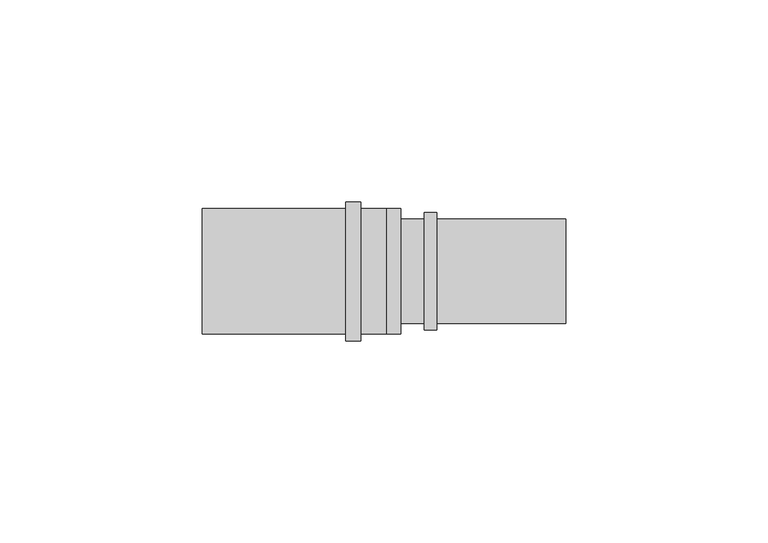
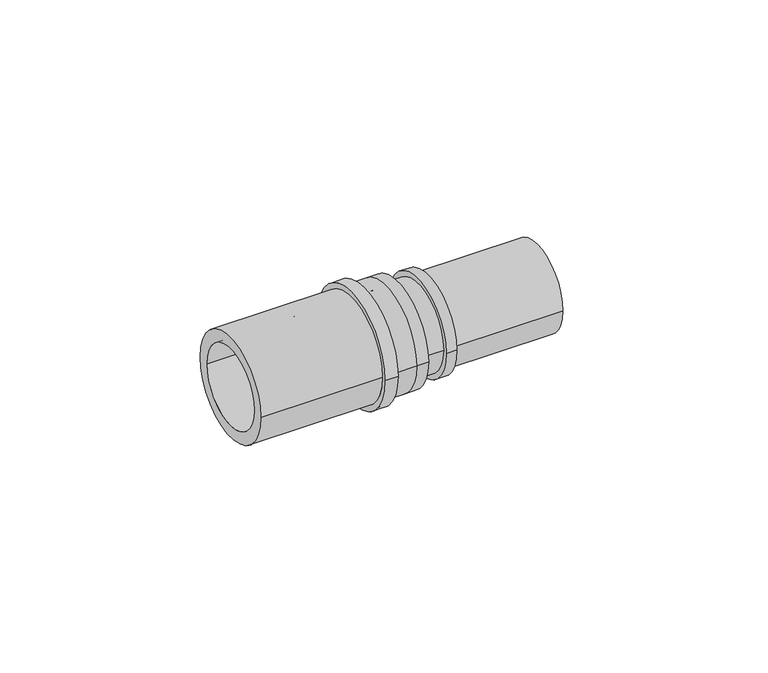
"""IFC4 building model written with IfcOpenShell, lengths in millimetres: pipe fitting geometry, FASTLOC_Coupling reduced LX : FSL C LX PL."""

from ifc_helpers import new_model, si_unit, frame, origin, place, context, project, spatial, polyline, circle_curve, source, transform, mapped, element, save
from ifc_brep_helpers import plane_surface, cylinder_surface, revolved_surface, advanced_brep


def pipe_fitting_32bb0f4b(model_context):
    return source(origin(), model_context, "Body", "AdvancedBrep", [
        advanced_brep(
        [(-1.5, 15.545, 0.0), (-1.5, -15.545, 0.0), (-7.9, -15.545, 0.0), (-7.9, 15.545, 0.0), (-7.9, 17.2, 0.0), (-7.9, -17.2, 0.0), (-11.6, -17.2, 0.0), (-11.6, 17.2, 0.0), (-11.6, 15.545, 0.0), (-11.6, -15.545, 0.0), (-47.1, -15.545, 0.0), (-47.1, 15.545, 0.0), (-47.1, 11.95, 0.0), (-47.1, -11.95, 0.0), (-1.5, -11.95, 0.0), (-1.5, 11.95, 0.0), (-1.5, 10.295, 0.0), (-1.5, -10.295, 0.0), (42.9, -10.295, 0.0), (42.9, 10.295, 0.0), (42.9, 12.9179189, 0.0), (42.9, -12.9179189, 0.0), (10.9, -12.9179189, 0.0), (10.9, 12.9179189, 0.0), (10.9, 14.545, 0.0), (10.9, -14.545, 0.0), (7.9, -14.545, 0.0), (7.9, 14.545, 0.0), (7.9, 12.945, 0.0), (7.9, -12.945, 0.0), (2.0, -12.945, 0.0), (2.0, 12.945, 0.0), (2.0, 15.545, 0.0), (2.0, -15.545, 0.0)],
        [
            (0, 1, circle_curve(frame((-1.5, 0.0, 0.0), z_axis=(-1.0, 0.0, 0.0), x_axis=(0.0, -1.0, 0.0)), 15.545)),
            (1, 2),
            (2, 3, circle_curve(frame((-7.9, 0.0, 0.0), z_axis=(1.0, 0.0, 0.0), x_axis=(0.0, -1.0, 0.0)), 15.545)),
            (3, 0),
            (4, 5, circle_curve(frame((-7.9, 0.0, 0.0), z_axis=(-1.0, 0.0, 0.0), x_axis=(0.0, -1.0, 0.0)), 17.2)),
            (5, 6),
            (6, 7, circle_curve(frame((-11.6, 0.0, 0.0), z_axis=(1.0, 0.0, 0.0), x_axis=(0.0, -1.0, 0.0)), 17.2)),
            (7, 4),
            (8, 9, circle_curve(frame((-11.6, 0.0, 0.0), z_axis=(-1.0, 0.0, 0.0), x_axis=(0.0, -1.0, 0.0)), 15.545)),
            (9, 10),
            (10, 11, circle_curve(frame((-47.1, 0.0, 0.0), z_axis=(1.0, 0.0, 0.0), x_axis=(0.0, -1.0, 0.0)), 15.545)),
            (11, 8),
            (12, 13, circle_curve(frame((-47.1, 0.0, 0.0), z_axis=(-1.0, 0.0, 0.0), x_axis=(0.0, -1.0, 0.0)), 11.95)),
            (13, 14),
            (14, 15, circle_curve(frame((-1.5, 0.0, 0.0), z_axis=(1.0, 0.0, 0.0), x_axis=(0.0, -1.0, 0.0)), 11.95)),
            (15, 12),
            (1, 0, circle_curve(frame((-1.5, 0.0, 0.0), z_axis=(-1.0, 0.0, 0.0), x_axis=(0.0, 1.0, 0.0)), 15.545)),
            (3, 2, circle_curve(frame((-7.9, 0.0, 0.0), z_axis=(1.0, 0.0, 0.0), x_axis=(0.0, 1.0, 0.0)), 15.545)),
            (4, 5, circle_curve(frame((-7.9, 0.0, 0.0), z_axis=(1.0, 0.0, 0.0), x_axis=(0.0, 1.0, 0.0)), 17.2)),
            (7, 6, circle_curve(frame((-11.6, 0.0, 0.0), z_axis=(1.0, 0.0, 0.0), x_axis=(0.0, 1.0, 0.0)), 17.2)),
            (8, 9, circle_curve(frame((-11.6, 0.0, 0.0), z_axis=(1.0, 0.0, 0.0), x_axis=(0.0, 1.0, 0.0)), 15.545)),
            (11, 10, circle_curve(frame((-47.1, 0.0, 0.0), z_axis=(1.0, 0.0, 0.0), x_axis=(0.0, 1.0, 0.0)), 15.545)),
            (12, 13, circle_curve(frame((-47.1, 0.0, 0.0), z_axis=(1.0, 0.0, 0.0), x_axis=(0.0, 1.0, 0.0)), 11.95)),
            (15, 14, circle_curve(frame((-1.5, 0.0, 0.0), z_axis=(1.0, 0.0, 0.0), x_axis=(0.0, 1.0, 0.0)), 11.95)),
            (16, 17, circle_curve(frame((-1.5, 0.0, 0.0), z_axis=(-1.0, 0.0, 0.0), x_axis=(0.0, -1.0, 0.0)), 10.295)),
            (17, 18),
            (18, 19, circle_curve(frame((42.9, 0.0, 0.0), z_axis=(1.0, 0.0, 0.0), x_axis=(0.0, -1.0, 0.0)), 10.295)),
            (19, 16),
            (20, 21, circle_curve(frame((42.9, 0.0, 0.0), z_axis=(-1.0, 0.0, 0.0), x_axis=(0.0, -1.0, 0.0)), 12.9179189)),
            (21, 22),
            (22, 23, circle_curve(frame((10.9, 0.0, 0.0), z_axis=(1.0, 0.0, 0.0), x_axis=(0.0, -1.0, 0.0)), 12.9179189)),
            (23, 20),
            (24, 25, circle_curve(frame((10.9, 0.0, 0.0), z_axis=(-1.0, 0.0, 0.0), x_axis=(0.0, -1.0, 0.0)), 14.545)),
            (25, 26),
            (26, 27, circle_curve(frame((7.9, 0.0, 0.0), z_axis=(1.0, 0.0, 0.0), x_axis=(0.0, -1.0, 0.0)), 14.545)),
            (27, 24),
            (28, 29, circle_curve(frame((7.9, 0.0, 0.0), z_axis=(-1.0, 0.0, 0.0), x_axis=(0.0, -1.0, 0.0)), 12.945)),
            (29, 30),
            (30, 31, circle_curve(frame((2.0, 0.0, 0.0), z_axis=(1.0, 0.0, 0.0), x_axis=(0.0, -1.0, 0.0)), 12.945)),
            (31, 28),
            (32, 33, circle_curve(frame((2.0, 0.0, 0.0), z_axis=(-1.0, 0.0, 0.0), x_axis=(0.0, -1.0, 0.0)), 15.545)),
            (33, 1),
            (0, 32),
            (16, 17, circle_curve(frame((-1.5, 0.0, 0.0), z_axis=(1.0, 0.0, 0.0), x_axis=(0.0, 1.0, 0.0)), 10.295)),
            (19, 18, circle_curve(frame((42.9, 0.0, 0.0), z_axis=(1.0, 0.0, 0.0), x_axis=(0.0, 1.0, 0.0)), 10.295)),
            (20, 21, circle_curve(frame((42.9, 0.0, 0.0), z_axis=(1.0, 0.0, 0.0), x_axis=(0.0, 1.0, 0.0)), 12.9179189)),
            (23, 22, circle_curve(frame((10.9, 0.0, 0.0), z_axis=(1.0, 0.0, 0.0), x_axis=(0.0, 1.0, 0.0)), 12.9179189)),
            (24, 25, circle_curve(frame((10.9, 0.0, 0.0), z_axis=(1.0, 0.0, 0.0), x_axis=(0.0, 1.0, 0.0)), 14.545)),
            (27, 26, circle_curve(frame((7.9, 0.0, 0.0), z_axis=(1.0, 0.0, 0.0), x_axis=(0.0, 1.0, 0.0)), 14.545)),
            (28, 29, circle_curve(frame((7.9, 0.0, 0.0), z_axis=(1.0, 0.0, 0.0), x_axis=(0.0, 1.0, 0.0)), 12.945)),
            (31, 30, circle_curve(frame((2.0, 0.0, 0.0), z_axis=(1.0, 0.0, 0.0), x_axis=(0.0, 1.0, 0.0)), 12.945)),
            (32, 33, circle_curve(frame((2.0, 0.0, 0.0), z_axis=(1.0, 0.0, 0.0), x_axis=(0.0, 1.0, 0.0)), 15.545)),
        ],
        [
            cylinder_surface(frame((0.0, 0.0, 0.0), z_axis=(1.0, 0.0, 0.0), x_axis=(0.0, -1.0, 0.0)), 15.545),
            cylinder_surface(frame((0.0, 0.0, 0.0), z_axis=(1.0, 0.0, 0.0), x_axis=(0.0, -1.0, 0.0)), 17.2),
            revolved_surface(polyline([(-1.5, -11.95, 0.0), (-47.1, -11.95, 0.0)]), (0.0, 0.0, 0.0), (1.0, 0.0, 0.0)),
            cylinder_surface(frame((0.0, 0.0, 0.0), z_axis=(1.0, 0.0, 0.0), x_axis=(0.0, 1.0, 0.0)), 15.545),
            plane_surface(frame((-7.9, 0.0, 0.0), z_axis=(1.0, 0.0, 0.0), x_axis=(0.0, 1.0, 0.0))),
            cylinder_surface(frame((0.0, 0.0, 0.0), z_axis=(1.0, 0.0, 0.0), x_axis=(0.0, 1.0, 0.0)), 17.2),
            plane_surface(frame((-11.6, 0.0, 0.0), z_axis=(-1.0, 0.0, 0.0), x_axis=(0.0, 1.0, 0.0))),
            plane_surface(frame((-47.1, 0.0, 0.0), z_axis=(-1.0, 0.0, 0.0), x_axis=(0.0, 1.0, 0.0))),
            revolved_surface(polyline([(-1.5, 11.95, 0.0), (-47.1, 11.95, 0.0)]), (0.0, 0.0, 0.0), (1.0, 0.0, 0.0)),
            revolved_surface(polyline([(42.9, -10.295, 0.0), (-1.5, -10.295, 0.0)]), (0.0, 0.0, 0.0), (1.0, 0.0, 0.0)),
            cylinder_surface(frame((0.0, 0.0, 0.0), z_axis=(1.0, 0.0, 0.0), x_axis=(0.0, -1.0, 0.0)), 12.9179189),
            cylinder_surface(frame((0.0, 0.0, 0.0), z_axis=(1.0, 0.0, 0.0), x_axis=(0.0, -1.0, 0.0)), 14.545),
            cylinder_surface(frame((0.0, 0.0, 0.0), z_axis=(1.0, 0.0, 0.0), x_axis=(0.0, -1.0, 0.0)), 12.945),
            plane_surface(frame((-1.5, 0.0, 0.0), z_axis=(-1.0, 0.0, 0.0), x_axis=(0.0, 1.0, 0.0))),
            revolved_surface(polyline([(42.9, 10.295, 0.0), (-1.5, 10.295, 0.0)]), (0.0, 0.0, 0.0), (1.0, 0.0, 0.0)),
            plane_surface(frame((42.9, 0.0, 0.0), z_axis=(1.0, 0.0, 0.0), x_axis=(0.0, 1.0, 0.0))),
            cylinder_surface(frame((0.0, 0.0, 0.0), z_axis=(1.0, 0.0, 0.0), x_axis=(0.0, 1.0, 0.0)), 12.9179189),
            plane_surface(frame((10.9, 0.0, 0.0), z_axis=(1.0, 0.0, 0.0), x_axis=(0.0, 1.0, 0.0))),
            cylinder_surface(frame((0.0, 0.0, 0.0), z_axis=(1.0, 0.0, 0.0), x_axis=(0.0, 1.0, 0.0)), 14.545),
            plane_surface(frame((7.9, 0.0, 0.0), z_axis=(-1.0, 0.0, 0.0), x_axis=(0.0, 1.0, 0.0))),
            cylinder_surface(frame((0.0, 0.0, 0.0), z_axis=(1.0, 0.0, 0.0), x_axis=(0.0, 1.0, 0.0)), 12.945),
            plane_surface(frame((2.0, 0.0, 0.0), z_axis=(1.0, 0.0, 0.0), x_axis=(0.0, 1.0, 0.0))),
        ],
        [
            (0, [[1, 2, 3, 4]]),
            (1, [[5, 6, 7, 8]]),
            (0, [[9, 10, 11, 12]]),
            (2, [[13, 14, 15, 16]]),
            (3, [[17, -4, 18, -2]]),
            (4, [[19, -5], [-18, -3]]),
            (5, [[-19, -8, 20, -6]]),
            (6, [[-20, -7], [21, -9]]),
            (3, [[-21, -12, 22, -10]]),
            (7, [[-22, -11], [23, -13]]),
            (8, [[-23, -16, 24, -14]]),
            (9, [[25, 26, 27, 28]]),
            (10, [[29, 30, 31, 32]]),
            (11, [[33, 34, 35, 36]]),
            (12, [[37, 38, 39, 40]]),
            (0, [[41, 42, -1, 43]]),
            (13, [[-24, -15], [44, -25]]),
            (14, [[-44, -28, 45, -26]]),
            (15, [[46, -29], [-45, -27]]),
            (16, [[-46, -32, 47, -30]]),
            (17, [[48, -33], [-47, -31]]),
            (18, [[-48, -36, 49, -34]]),
            (19, [[-49, -35], [50, -37]]),
            (20, [[-50, -40, 51, -38]]),
            (21, [[52, -41], [-51, -39]]),
            (3, [[-52, -43, -17, -42]]),
        ],
    ),
    ])


if __name__ == "__main__":
    model = new_model("IFC4")
    model_context = context("Model", 3, world=origin())
    ifc_project = project(units=[si_unit("LENGTHUNIT", "METRE", prefix="MILLI")], contexts=[model_context])
    site = spatial("IfcSite", under=ifc_project)
    building = spatial("IfcBuilding", under=site)
    placement = place(None, origin())
    pipe_fitting_shape = pipe_fitting_32bb0f4b(model_context)
    element("IfcPipeFitting", 1, ObjectType="FASTLOC_Coupling reduced LX : FSL C LX PL", at=placement, inside=building, context=model_context, shape_type="MappedRepresentation", body=[
        mapped(pipe_fitting_shape, transform((0.0, 0.0, 0.0), x_axis=(1.0, 0.0, 0.0), y_axis=(0.0, 1.0, 0.0), z_axis=(0.0, 0.0, 1.0))),
    ])
    save(model, "model.ifc")
